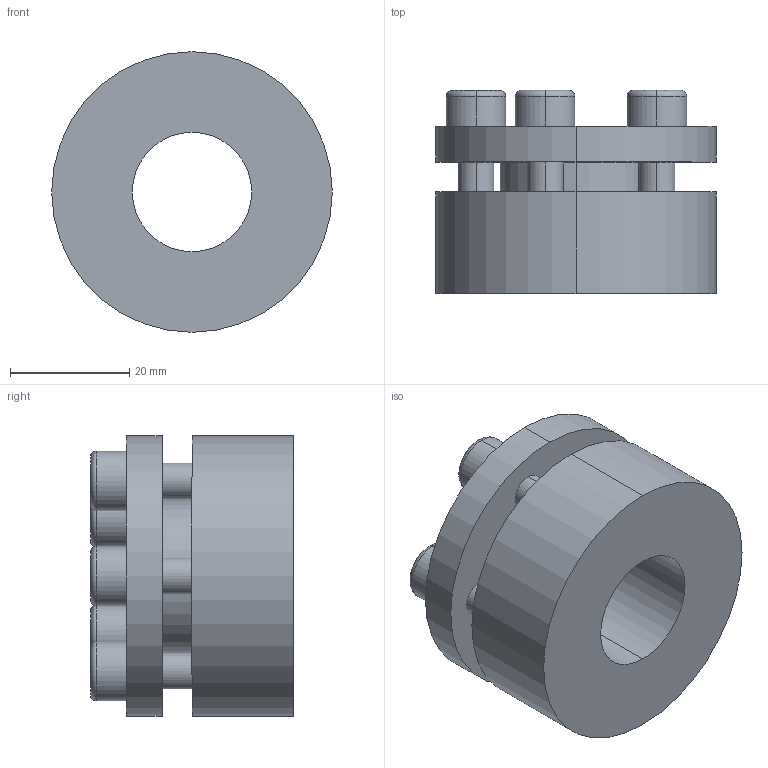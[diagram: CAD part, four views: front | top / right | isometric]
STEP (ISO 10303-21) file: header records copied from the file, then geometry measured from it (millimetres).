
FILE_DESCRIPTION (( 'STEP AP203' ), '1' );
FILE_NAME ('PL-H3 20-47.STEP', '2021-10-23T01:06:07', ( '' ), ( '' ), 'SwSTEP 2.0', 'SolidWorks 2018', '' );
FILE_SCHEMA (( 'CONFIG_CONTROL_DESIGN' ));
Length unit declared in the file: millimetre
Products named in the file (1): PL-H3 20-47
Bounding box: 47 x 34 x 47 mm (x, y, z)
Volume: 36346.9 mm3; surface area: 12173.5 mm2
Topology: 1 solids, 1 shells, 82 faces, 194 edges, 126 vertices
Faces by surface type: plane 44, cylinder 28, torus 10
Entity records: 2475 total; most frequent: DIRECTION 436, CARTESIAN_POINT 403, ORIENTED_EDGE 388, EDGE_CURVE 194, AXIS2_PLACEMENT_3D 159, VERTEX_POINT 126, LINE 118, VECTOR 118
